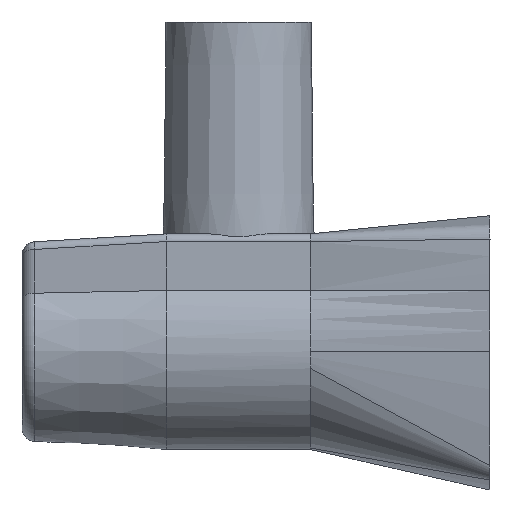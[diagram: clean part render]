
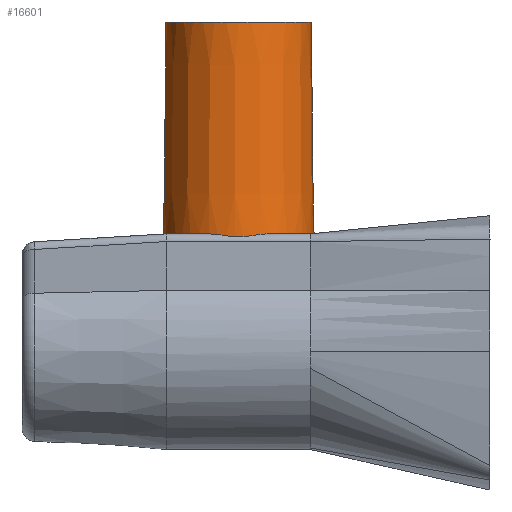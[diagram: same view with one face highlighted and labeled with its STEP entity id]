
A CAD part, left-side view. The second image highlights one B-rep face of the part: STEP entity #16601.
In plain terms, the highlighted conical face has half-angle 0.6 degrees and reference radius 3.8 mm.
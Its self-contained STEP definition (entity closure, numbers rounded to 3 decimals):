
#37=CONICAL_SURFACE('',#17773,3.8,0.01);
#141=ELLIPSE('',#17750,3.92,3.913);
#1845=B_SPLINE_CURVE_WITH_KNOTS('',3,(#37875,#37876,#37877,#37878,#37879),
 .UNSPECIFIED.,.F.,.F.,(4,1,4),(0.,0.002,0.003),
 .UNSPECIFIED.);
#1848=B_SPLINE_CURVE_WITH_KNOTS('',3,(#37894,#37895,#37896,#37897,#37898),
 .UNSPECIFIED.,.F.,.F.,(4,1,4),(0.007,0.009,
0.01),.UNSPECIFIED.);
#1853=B_SPLINE_CURVE_WITH_KNOTS('',3,(#38163,#38164,#38165,#38166),
 .UNSPECIFIED.,.F.,.F.,(4,4),(0.003,0.005),
 .UNSPECIFIED.);
#2383=CIRCLE('',#17704,3.915);
#2384=CIRCLE('',#17706,3.915);
#2385=CIRCLE('',#17708,3.915);
#2403=CIRCLE('',#17737,3.915);
#2410=CIRCLE('',#17774,3.8);
#7073=ORIENTED_EDGE('',*,*,#9752,.F.);
#7074=ORIENTED_EDGE('',*,*,#9885,.T.);
#7075=ORIENTED_EDGE('',*,*,#9749,.F.);
#7076=ORIENTED_EDGE('',*,*,#9882,.F.);
#7077=ORIENTED_EDGE('',*,*,#9857,.F.);
#7078=ORIENTED_EDGE('',*,*,#9891,.T.);
#7079=ORIENTED_EDGE('',*,*,#9755,.F.);
#7080=ORIENTED_EDGE('',*,*,#9897,.T.);
#7081=ORIENTED_EDGE('',*,*,#9918,.T.);
#9749=EDGE_CURVE('',#11574,#11576,#2383,.T.);
#9752=EDGE_CURVE('',#11578,#11579,#2384,.T.);
#9755=EDGE_CURVE('',#11580,#11582,#2385,.T.);
#9857=EDGE_CURVE('',#11658,#11659,#2403,.T.);
#9882=EDGE_CURVE('',#11659,#11574,#141,.F.);
#9885=EDGE_CURVE('',#11578,#11576,#1845,.T.);
#9891=EDGE_CURVE('',#11658,#11582,#1848,.T.);
#9897=EDGE_CURVE('',#11580,#11579,#1853,.F.);
#9918=EDGE_CURVE('',#11681,#11681,#2410,.T.);
#11574=VERTEX_POINT('',#36921);
#11576=VERTEX_POINT('',#36924);
#11578=VERTEX_POINT('',#36929);
#11579=VERTEX_POINT('',#36931);
#11580=VERTEX_POINT('',#36941);
#11582=VERTEX_POINT('',#36944);
#11658=VERTEX_POINT('',#37807);
#11659=VERTEX_POINT('',#37809);
#11681=VERTEX_POINT('',#38680);
#14552=EDGE_LOOP('',(#7073,#7074,#7075,#7076,#7077,#7078,#7079,#7080));
#14553=EDGE_LOOP('',(#7081));
#15532=FACE_BOUND('',#14552,.T.);
#15533=FACE_BOUND('',#14553,.T.);
#16601=ADVANCED_FACE('',(#15532,#15533),#37,.T.);
#17704=AXIS2_PLACEMENT_3D('',#36923,#20671,#20672);
#17706=AXIS2_PLACEMENT_3D('',#36930,#20677,#20678);
#17708=AXIS2_PLACEMENT_3D('',#36943,#20681,#20682);
#17737=AXIS2_PLACEMENT_3D('',#37808,#20750,#20751);
#17750=AXIS2_PLACEMENT_3D('',#37871,#20791,#20792);
#17773=AXIS2_PLACEMENT_3D('',#38678,#20841,#20842);
#17774=AXIS2_PLACEMENT_3D('',#38679,#20843,#20844);
#20671=DIRECTION('',(0.,0.,-1.));
#20672=DIRECTION('',(-1.,0.,0.));
#20677=DIRECTION('',(0.,0.,-1.));
#20678=DIRECTION('',(-1.,0.,0.));
#20681=DIRECTION('',(0.,0.,-1.));
#20682=DIRECTION('',(-1.,0.,0.));
#20750=DIRECTION('',(0.,0.,-1.));
#20751=DIRECTION('',(-1.,0.,0.));
#20791=DIRECTION('',(0.,0.06,0.998));
#20792=DIRECTION('',(0.,0.998,-0.06));
#20841=DIRECTION('',(0.,0.,-1.));
#20842=DIRECTION('',(1.,0.,0.));
#20843=DIRECTION('',(0.,0.,-1.));
#20844=DIRECTION('',(-1.,0.,0.));
#36921=CARTESIAN_POINT('',(1.125,7.5,6.1));
#36923=CARTESIAN_POINT('',(0.,3.75,6.1));
#36924=CARTESIAN_POINT('',(3.6,5.289,6.1));
#36929=CARTESIAN_POINT('',(3.6,2.211,6.1));
#36930=CARTESIAN_POINT('',(0.,3.75,6.1));
#36931=CARTESIAN_POINT('',(1.125,0.,6.1));
#36941=CARTESIAN_POINT('',(-1.125,0.,6.1));
#36943=CARTESIAN_POINT('',(0.,3.75,6.1));
#36944=CARTESIAN_POINT('',(-3.6,2.211,6.1));
#37807=CARTESIAN_POINT('',(-3.6,5.289,6.1));
#37808=CARTESIAN_POINT('',(0.,3.75,6.1));
#37809=CARTESIAN_POINT('',(-1.125,7.5,6.1));
#37871=CARTESIAN_POINT('',(0.,3.752,6.325));
#37875=CARTESIAN_POINT('',(3.6,2.211,6.1));
#37876=CARTESIAN_POINT('',(3.81,2.703,6.1));
#37877=CARTESIAN_POINT('',(4.024,3.749,5.788));
#37878=CARTESIAN_POINT('',(3.81,4.798,6.1));
#37879=CARTESIAN_POINT('',(3.6,5.289,6.1));
#37894=CARTESIAN_POINT('',(-3.6,5.289,6.1));
#37895=CARTESIAN_POINT('',(-3.809,4.8,6.1));
#37896=CARTESIAN_POINT('',(-4.024,3.754,5.788));
#37897=CARTESIAN_POINT('',(-3.81,2.703,6.1));
#37898=CARTESIAN_POINT('',(-3.6,2.211,6.1));
#38163=CARTESIAN_POINT('',(1.125,0.,6.1));
#38164=CARTESIAN_POINT('',(0.389,-0.221,6.123));
#38165=CARTESIAN_POINT('',(-0.397,-0.218,6.122));
#38166=CARTESIAN_POINT('',(-1.125,0.,6.1));
#38678=CARTESIAN_POINT('',(0.,3.75,17.1));
#38679=CARTESIAN_POINT('',(0.,3.75,17.1));
#38680=CARTESIAN_POINT('',(-3.8,3.75,17.1));
